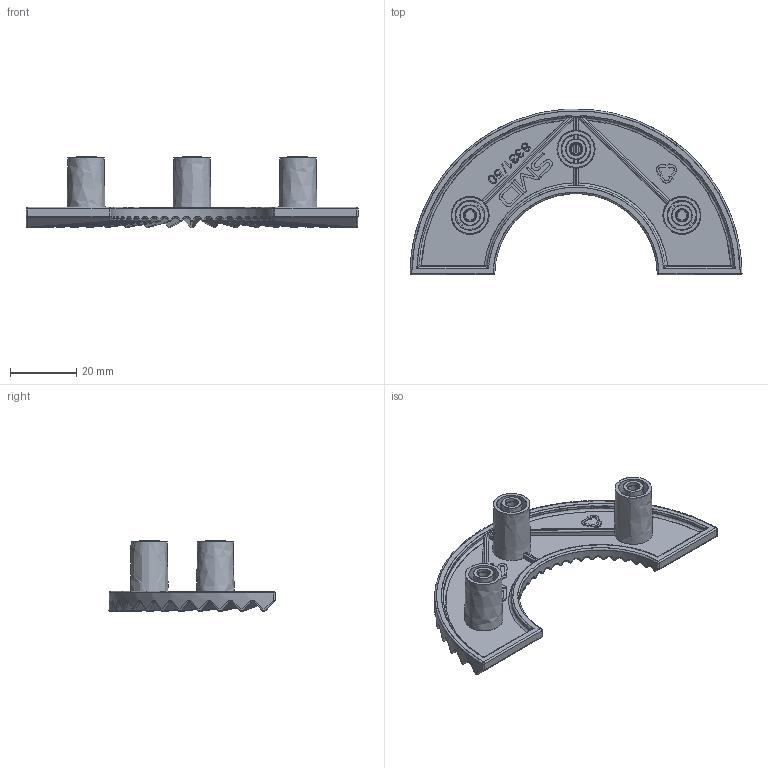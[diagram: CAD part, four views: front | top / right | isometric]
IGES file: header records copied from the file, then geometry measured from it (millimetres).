
Start section: C
Global section: file name: 8331-50_New_Final.igs; native system: By Siemens PLM Incorporated; preprocessor: XPlus GENERIC/IGES 16.0.42; author: Author; organization: Title; date: 20220504.111814; units: millimetre
Bounding box: 100.3 x 50.15 x 21.54 mm (x, y, z)
Surface area: 13447.3 mm2 (no closed solid volume)
Topology: 0 solids, 0 shells, 752 faces, 4073 edges, 4040 vertices
Faces by surface type: bspline 752
